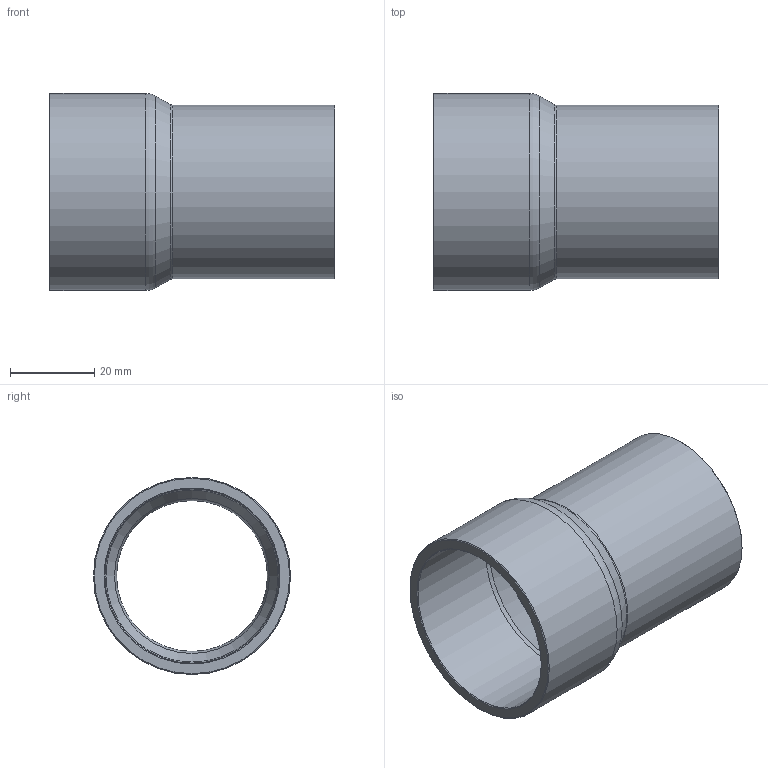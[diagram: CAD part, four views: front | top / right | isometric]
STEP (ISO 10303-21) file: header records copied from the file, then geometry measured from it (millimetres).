
FILE_DESCRIPTION((''),'2;1');
FILE_NAME('G:\SANHA-Ternat\Technik\Management\Bouwmaten + markeringen\z-maattekeningen 3D\29000s\29000s_gem\29245158_gem.stp','2020-03-27T10:01:03',('vdvijverd'),(''),'Autodesk Inventor 2009','Autodesk Inventor 2009','');
FILE_SCHEMA(('AUTOMOTIVE_DESIGN { 1 0 10303 214 1 1 1 1 }'));
Length unit declared in the file: millimetre
Products named in the file (1): 29245158_gem
Bounding box: 68 x 46.85 x 46.85 mm (x, y, z)
Volume: 23722.9 mm3; surface area: 18232.3 mm2
Topology: 1 solids, 1 shells, 15 faces, 28 edges, 15 vertices
Faces by surface type: cone 5, cylinder 4, plane 2, torus 2, bspline 2
Full cylindrical faces by diameter (mm): 35.87 x1, 41.27 x1, 41.455 x1, 46.855 x1
Entity records: 414 total; most frequent: CARTESIAN_POINT 134, DIRECTION 58, ORIENTED_EDGE 30, EDGE_LOOP 30, AXIS2_PLACEMENT_3D 29, VERTEX_POINT 15, CIRCLE 15, EDGE_CURVE 15
